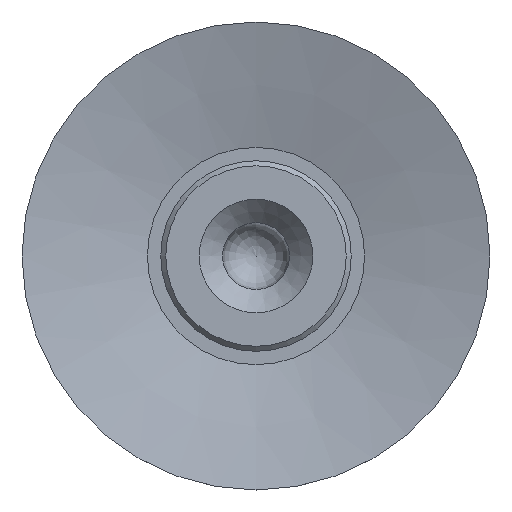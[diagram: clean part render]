
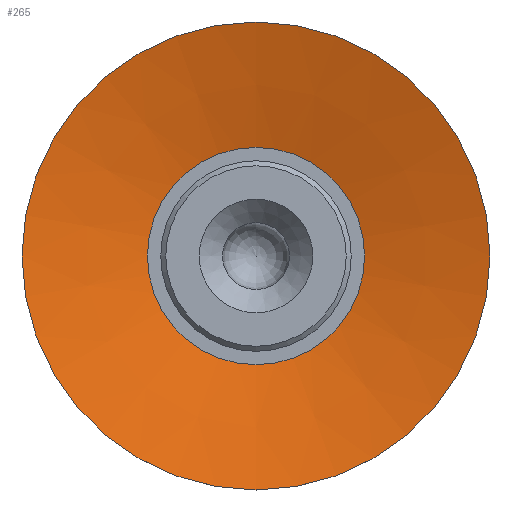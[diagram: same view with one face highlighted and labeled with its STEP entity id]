
A CAD part, top view. The second image highlights one B-rep face of the part: STEP entity #265.
In plain terms, the highlighted conical face has half-angle 75 degrees and reference radius 70 mm.
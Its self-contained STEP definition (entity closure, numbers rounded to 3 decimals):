
#265=ADVANCED_FACE('',(#746,#747),#748,.F.);
#746=FACE_BOUND('',#1584,.T.);
#747=FACE_OUTER_BOUND('',#1585,.T.);
#748=CONICAL_SURFACE('',#1586,70.,1.309);
#1584=EDGE_LOOP('',(#2527));
#1585=EDGE_LOOP('',(#2528));
#1586=AXIS2_PLACEMENT_3D('',#2529,#2530,#2531);
#2527=ORIENTED_EDGE('',*,*,#4253,.T.);
#2528=ORIENTED_EDGE('',*,*,#4250,.F.);
#2529=CARTESIAN_POINT('',(0.0,0.0,6.048));
#2530=DIRECTION('',(-0.0,0.,1.0));
#2531=DIRECTION('',(0.0,-1.0,0.));
#4250=EDGE_CURVE('',#4816,#4816,#4817,.T.);
#4253=EDGE_CURVE('',#4821,#4821,#4822,.T.);
#4816=VERTEX_POINT('',#5625);
#4817=CIRCLE('',#5626,70.);
#4821=VERTEX_POINT('',#5630);
#4822=CIRCLE('',#5631,32.5);
#5625=CARTESIAN_POINT('',(0.0,70.,6.048));
#5626=AXIS2_PLACEMENT_3D('',#6772,#6773,#6774);
#5630=CARTESIAN_POINT('',(0.0,32.5,-4.));
#5631=AXIS2_PLACEMENT_3D('',#6778,#6779,#6780);
#6772=CARTESIAN_POINT('',(0.0,0.0,6.048));
#6773=DIRECTION('',(-0.0,0.,-1.0));
#6774=DIRECTION('',(0.0,1.0,0.));
#6778=CARTESIAN_POINT('',(0.0,0.0,-4.));
#6779=DIRECTION('',(-0.0,0.,-1.0));
#6780=DIRECTION('',(0.0,1.0,0.));
